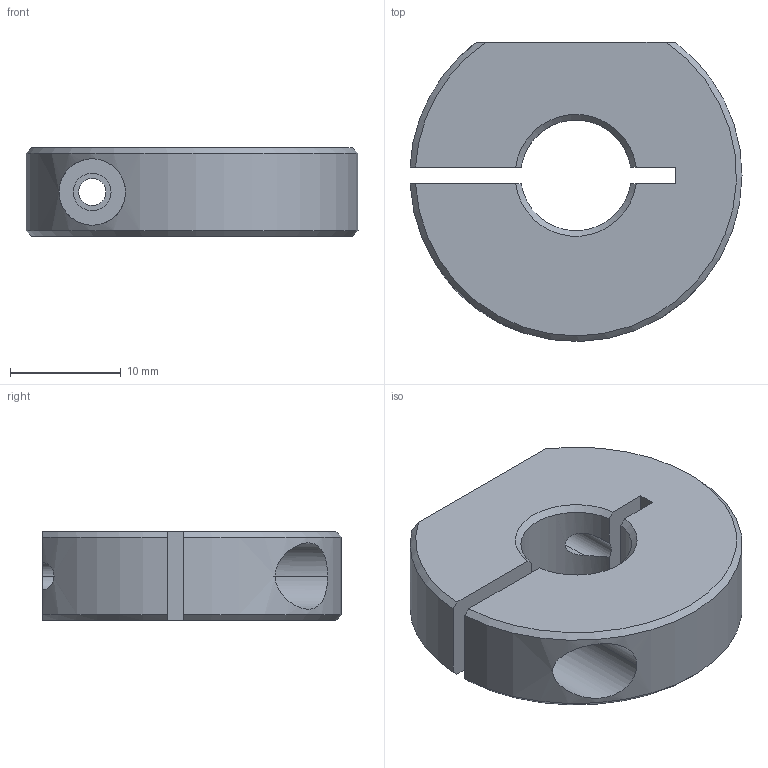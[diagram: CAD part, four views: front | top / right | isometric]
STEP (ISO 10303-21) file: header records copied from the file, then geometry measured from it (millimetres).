
FILE_DESCRIPTION (( 'STEP AP203' ), '1' );
FILE_NAME ('スリットカラー(Dカット).STEP', '2020-10-21T04:03:48', ( '' ), ( '' ), 'SwSTEP 2.0', 'SolidWorks 2017', '' );
FILE_SCHEMA (( 'CONFIG_CONTROL_DESIGN' ));
Length unit declared in the file: millimetre
Products named in the file (1): スリットカラー(Dカット)
Bounding box: 29.98 x 27 x 8 mm (x, y, z)
Volume: 4165.5 mm3; surface area: 2610.6 mm2
Topology: 1 solids, 1 shells, 37 faces, 106 edges, 69 vertices
Faces by surface type: cylinder 15, cone 13, plane 9
Entity records: 1476 total; most frequent: CARTESIAN_POINT 429, ORIENTED_EDGE 212, DIRECTION 195, EDGE_CURVE 106, AXIS2_PLACEMENT_3D 77, VERTEX_POINT 69, EDGE_LOOP 43, LINE 41
